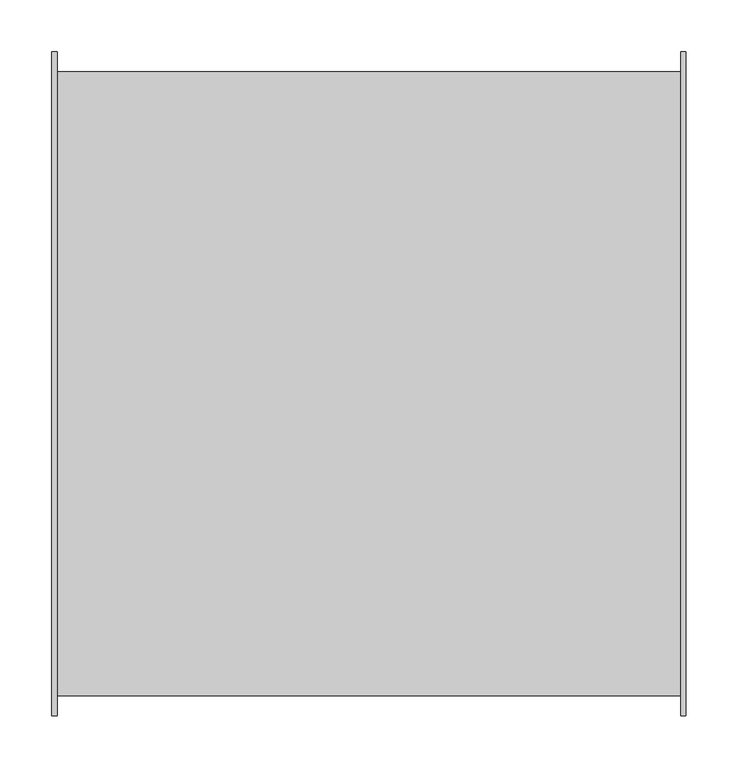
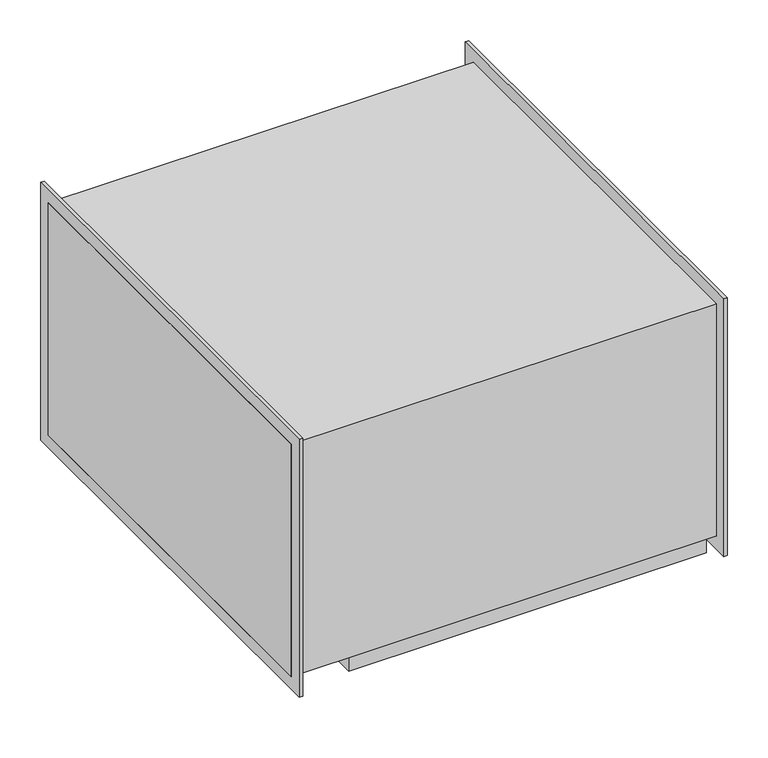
"""IFC4 building model written with IfcOpenShell, lengths in millimetres: unitary equipment geometry, VE-Wentylator-ParaForma-Harmann-DRB-Nawiewny : 060/35/3900S."""

from ifc_helpers import new_model, si_unit, point, frame, frame_2d, origin, place, context, project, spatial, polyline, circle_curve, trimmed, segment, composite_curve, outline, extrude, faceted_brep, source, transform, mapped, element, save
from ifc_brep_helpers import plane_surface, revolved_surface, advanced_brep


def unitary_equipment_105838a1(model_context):
    return source(origin(), model_context, "Body", "SolidModel", [
        faceted_brep([(-213.5, -282.9, -209.0), (-213.5, -282.9, -175.0), (-213.5, 197.1, -175.0), (-213.5, 197.1, -209.0), (295.5, -282.9, -209.0), (295.5, 197.1, -209.0), (295.5, 197.1, -175.0), (295.5, -282.9, -175.0), (-208.5, 192.1, -209.0), (-208.5, -277.9, -209.0), (290.5, -277.9, -209.0), (290.5, 192.1, -209.0), (-208.5, 192.1, -175.0), (-208.5, -277.9, -175.0), (290.5, -277.9, -175.0), (290.5, 192.1, -175.0), (-305.0, -300.0, 175.0), (-305.0, -300.0, -175.0), (305.0, -300.0, -175.0), (305.0, -300.0, 175.0), (-305.0, 300.0, 175.0), (305.0, 300.0, 175.0), (-305.0, 300.0, -175.0), (305.0, 300.0, -175.0)], [[[0, 1, 2, 3]], [[4, 5, 6, 7]], [[1, 0, 4, 7]], [[3, 2, 6, 5]], [[0, 3, 5, 4], [8, 9, 10, 11]], [[8, 12, 13, 9]], [[10, 14, 15, 11]], [[9, 13, 14, 10]], [[12, 8, 11, 15]], [[16, 17, 18, 19]], [[20, 16, 19, 21]], [[22, 20, 21, 23]], [[13, 12, 15, 14]], [[18, 17, 22, 23], [2, 1, 7, 6]], [[17, 16, 20, 22]], [[18, 23, 21, 19]]]),
        extrude(outline(polyline([(-319.2, -194.2), (-319.2, 194.2), (319.2, 194.2), (319.2, -194.2), (-319.2, -194.2)]), holes=[polyline([(-300.0, -175.0), (300.0, -175.0), (300.0, 175.0), (-300.0, 175.0), (-300.0, -175.0)])]), frame((300.0, 0.0, 0.0), z_axis=(1.0, 0.0, 0.0), x_axis=(0.0, 1.0, 0.0)), (0.0, 0.0, 1.0), 5.0),
        extrude(outline(polyline([(-319.2, -194.2), (-319.2, 194.2), (319.2, 194.2), (319.2, -194.2), (-319.2, -194.2)]), holes=[polyline([(-300.0, -175.0), (300.0, -175.0), (300.0, 175.0), (-300.0, 175.0), (-300.0, -175.0)])]), frame((-305.0, 0.0, 0.0), z_axis=(1.0, 0.0, 0.0), x_axis=(0.0, 1.0, 0.0)), (0.0, 0.0, 1.0), 5.0),
        extrude(outline(composite_curve([segment(polyline([(77.5, 77.4), (-22.5, 77.4)]), True, "CONTINUOUS"), segment(trimmed(circle_curve(frame_2d((-22.5, 82.4)), 5.0), [point((-22.5, 77.4))], [point((-27.5, 82.4))], False, "CARTESIAN"), True, "CONTINUOUS"), segment(polyline([(-27.5, 82.4), (-27.5, 167.4)]), True, "CONTINUOUS"), segment(trimmed(circle_curve(frame_2d((-22.5, 167.4)), 5.0), [point((-27.5, 167.4))], [point((-22.5, 172.4))], False, "CARTESIAN"), True, "CONTINUOUS"), segment(polyline([(-22.5, 172.4), (77.5, 172.4)]), True, "CONTINUOUS"), segment(trimmed(circle_curve(frame_2d((77.5, 167.4)), 5.0), [point((77.5, 172.4))], [point((82.5, 167.4))], False, "CARTESIAN"), True, "CONTINUOUS"), segment(polyline([(82.5, 167.4), (82.5, 82.4)]), True, "CONTINUOUS"), segment(trimmed(circle_curve(frame_2d((77.5, 82.4)), 5.0), [point((82.5, 82.4))], [point((77.5, 77.4))], False, "CARTESIAN"), True, "CONTINUOUS")], self_intersect=False)), frame((0.0, 0.0, -224.5), z_axis=(0.0, 0.0, 1.0), x_axis=(1.0, 0.0, 0.0)), (0.0, 0.0, 1.0), 49.5),
        advanced_brep(
        [(27.5, -93.35, -190.0), (27.5, 7.55, -190.0), (27.5, -106.4, -175.0), (27.5, 20.6, -175.0)],
        [
            (0, 1, circle_curve(frame((27.5, -42.9, -190.0), z_axis=(0.0, 0.0, -1.0), x_axis=(0.0, -1.0, 0.0)), 50.45)),
            (1, 0, circle_curve(frame((27.5, -42.9, -190.0), z_axis=(0.0, 0.0, -1.0), x_axis=(0.0, 1.0, 0.0)), 50.45)),
            (2, 3, circle_curve(frame((27.5, -42.9, -175.0), z_axis=(0.0, 0.0, 1.0), x_axis=(0.0, 1.0, 0.0)), 63.5)),
            (3, 2, circle_curve(frame((27.5, -42.9, -175.0), z_axis=(0.0, 0.0, 1.0), x_axis=(0.0, -1.0, 0.0)), 63.5)),
            (3, 1),
            (0, 2),
        ],
        [
            plane_surface(frame((27.5, -42.9, -190.0), z_axis=(0.0, 0.0, -1.0), x_axis=(-1.0, 0.0, 0.0))),
            plane_surface(frame((27.5, -42.9, -175.0), z_axis=(0.0, 0.0, 1.0), x_axis=(-1.0, 0.0, 0.0))),
            revolved_surface(polyline([(27.5, -93.34999999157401, -190.0), (27.5, -106.4, -175.0)]), (27.5, -42.9, -247.9885057), (0.0, 0.0, 1.0)),
            revolved_surface(polyline([(27.5, 7.549999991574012, -190.0), (27.5, 20.6, -175.0)]), (27.5, -42.9, -247.9885057), (0.0, 0.0, 1.0)),
        ],
        [
            (0, [[1, 2]]),
            (1, [[3, 4]]),
            (2, [[-4, 5, -1, 6]]),
            (3, [[-3, -6, -2, -5]]),
        ],
    ),
    ])


if __name__ == "__main__":
    model = new_model("IFC4")
    model_context = context("Model", 3, world=origin())
    ifc_project = project(units=[si_unit("LENGTHUNIT", "METRE", prefix="MILLI")], contexts=[model_context])
    site = spatial("IfcSite", under=ifc_project)
    building = spatial("IfcBuilding", under=site)
    placement = place(None, origin())
    unitary_equipment_shape = unitary_equipment_105838a1(model_context)
    element("IfcUnitaryEquipment", 1, ObjectType="VE-Wentylator-ParaForma-Harmann-DRB-Nawiewny : 060/35/3900S", at=placement, inside=building, context=model_context, shape_type="MappedRepresentation", body=[
        mapped(unitary_equipment_shape, transform((0.0, 0.0, 0.0), x_axis=(1.0, 0.0, 0.0), y_axis=(0.0, 1.0, 0.0), z_axis=(0.0, 0.0, 1.0))),
    ])
    save(model, "model.ifc")
